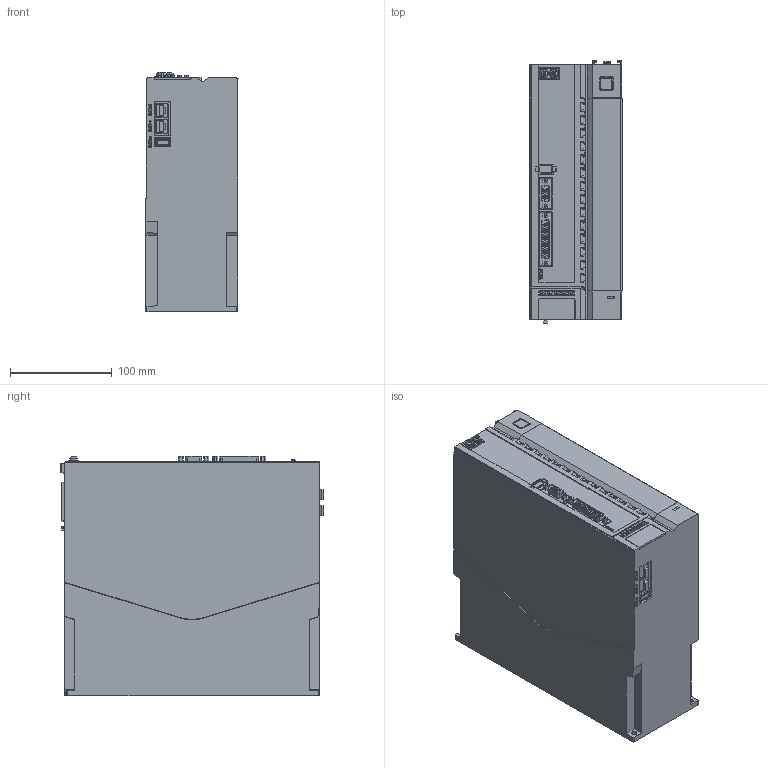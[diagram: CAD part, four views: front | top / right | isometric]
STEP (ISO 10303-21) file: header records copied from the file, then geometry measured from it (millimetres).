
FILE_DESCRIPTION((''),'2;1');
FILE_NAME('SV670P-SIZE-E_ASM_ASM_1_ASM','2023-02-08T',('l115853'),(''),'CREO PARAMETRIC BY PTC INC, 2015290','CREO PARAMETRIC BY PTC INC, 2015290','');
FILE_SCHEMA(('AUTOMOTIVE_DESIGN { 1 0 10303 214 1 1 1 1 }'));
Products named in the file (5): MSBR-3_1; MSBR-2_1; MSBR-1_1; 20211536; SV670P-SIZE-E_ASM_ASM_1_ASM
Assembly tree (4 placements, depth 2):
  SV670P-SIZE-E_ASM_ASM_1_ASM
    MSBR-3_1
    MSBR-2_1
    MSBR-1_1
    20211536
Bounding box: 90.35 x 257.4 x 235.11 mm (x, y, z)
Volume: 5019560.9 mm3; surface area: 239728.4 mm2
Topology: 4 solids, 26 shells, 2318 faces, 6326 edges, 4106 vertices
Faces by surface type: plane 1308, cylinder 621, bspline 168, cone 84, torus 66, sphere 45, extrusion 26
Entity records: 121489 total; most frequent: CARTESIAN_POINT 39884, ORIENTED_EDGE 12538, DIRECTION 11053, EDGE_CURVE 6269, VERTEX_POINT 4109, VECTOR 3897, LINE 3871, FILL_AREA_STYLE_COLOUR 3675
